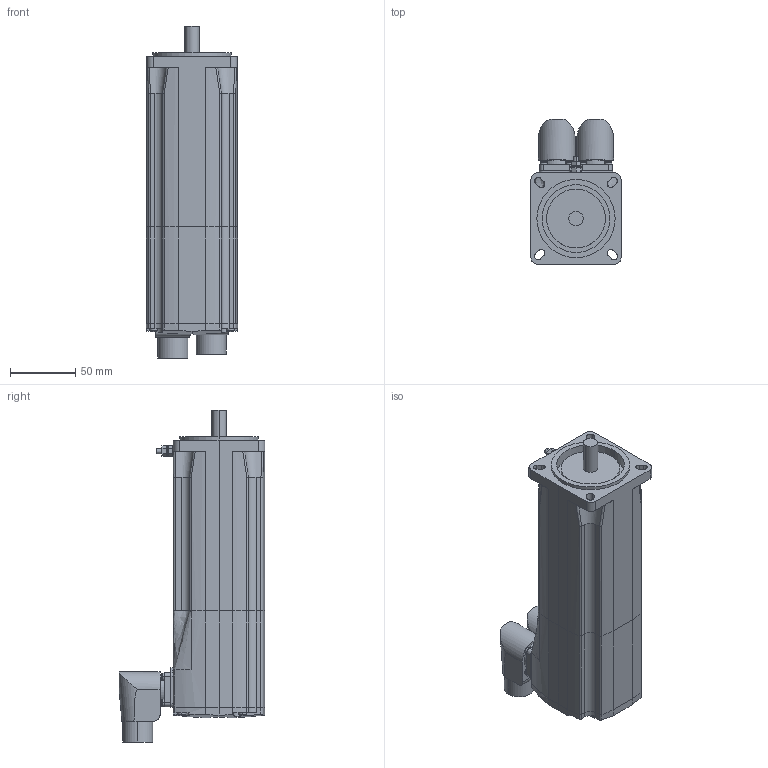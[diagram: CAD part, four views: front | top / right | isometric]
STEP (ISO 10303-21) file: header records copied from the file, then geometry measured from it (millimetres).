
FILE_DESCRIPTION (( 'STEP AP214' ), '1' );
FILE_NAME ('SH30702x0xF2100.STEP', '2013-11-29T07:58:49', ( 'Windows User' ), ( 'Schneider-Electric' ), 'SwSTEP 2.0', 'SolidWorks 2010', '' );
FILE_SCHEMA (( 'AUTOMOTIVE_DESIGN' ));
Length unit declared in the file: millimetre
Products named in the file (7): 1-100011014_K-TOPFGEHÄUSE SH3-BSH-070X_000_Topfgehäuse SH3-BSH-0702 ohne Passfeder; 1-100011011_K-ERDUNGSBOLZEN M4_000; 1-100010970_K-DECKEL MH3-070X_000_Deckel SH3-070x; 1-100008385_LAGERSCHILD SH3-0701+0702-F_VM0_Lagerschild SH3-0701+0702-F; K-POWER-CONINVERS-ABGEWIN_POWER-CONINVERS-ABGEWINKELT_000_mit Bremse; K-ENCODER-CONINVERS-ABGEW_ENCODER-CONINVERS-ABGEWINKELT_000_Single- MultiTurn; SH30702x0xF2100
Assembly tree (6 placements, depth 2):
  SH30702x0xF2100
    K-ENCODER-CONINVERS-ABGEW_ENCODER-CONINVERS-ABGEWINKELT_000_Single- MultiTurn
    K-POWER-CONINVERS-ABGEWIN_POWER-CONINVERS-ABGEWINKELT_000_mit Bremse
    1-100011011_K-ERDUNGSBOLZEN M4_000
    1-100011014_K-TOPFGEHÄUSE SH3-BSH-070X_000_Topfgehäuse SH3-BSH-0702 ohne Passfeder
    1-100010970_K-DECKEL MH3-070X_000_Deckel SH3-070x
    1-100008385_LAGERSCHILD SH3-0701+0702-F_VM0_Lagerschild SH3-0701+0702-F
Bounding box: 70 x 111.4 x 254.45 mm (x, y, z)
Volume: 985078.2 mm3; surface area: 103018.7 mm2
Topology: 6 solids, 14 shells, 464 faces, 1174 edges, 786 vertices
Faces by surface type: cylinder 223, plane 175, bspline 43, torus 16, cone 5, sphere 2
Entity records: 17336 total; most frequent: CARTESIAN_POINT 5934, ORIENTED_EDGE 2348, DIRECTION 2274, EDGE_CURVE 1174, AXIS2_PLACEMENT_3D 882, VERTEX_POINT 786, EDGE_LOOP 520, LINE 510
